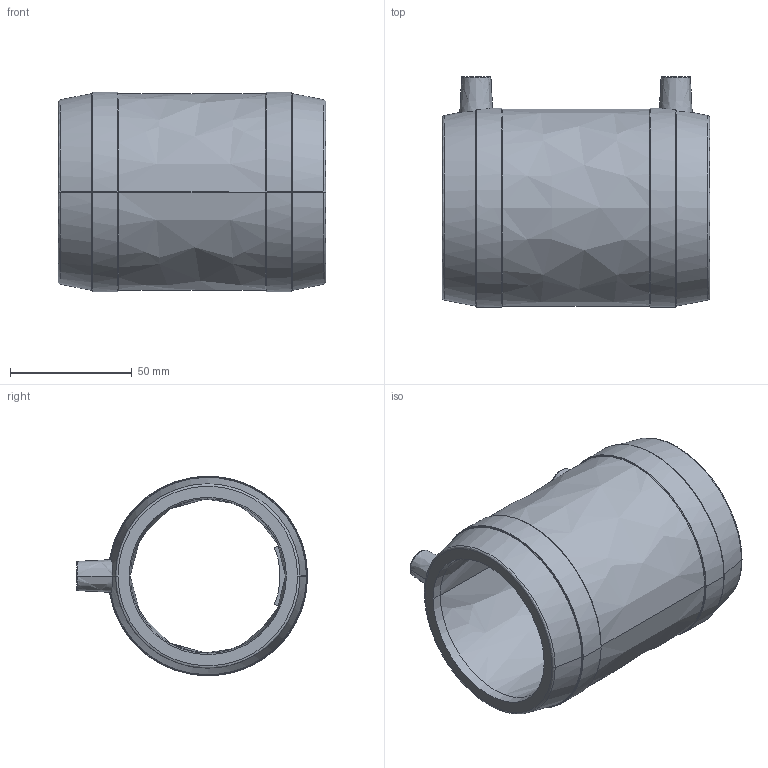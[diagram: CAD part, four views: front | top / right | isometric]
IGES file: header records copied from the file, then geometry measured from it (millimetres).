
Start section:  PTC IGES file: mb_d063_01.igs
Global section: file name: mb_d063_01.igs; native system: Pro/ENGINEER by Parametric Technology Corporation; preprocessor: 2011490; author: mtunjic; organization: Unknown; date: 20130805.164211; units: millimetre
Bounding box: 110 x 94.97 x 82 mm (x, y, z)
Surface area: 53924.9 mm2 (no closed solid volume)
Topology: 0 solids, 0 shells, 174 faces, 890 edges, 890 vertices
Faces by surface type: bspline 174
